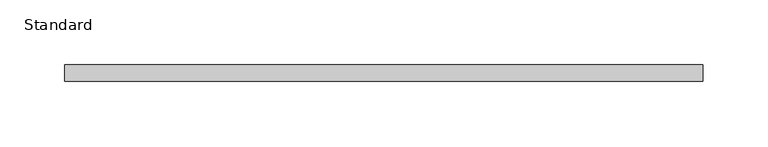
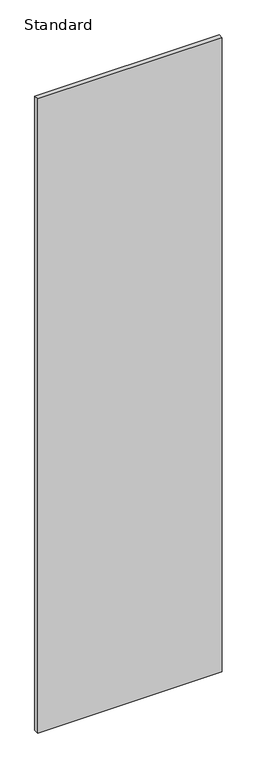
"""IFC4 building model written with IfcOpenShell, lengths in millimetres: furniture geometry, X_Locker-Duracube-Door : Standard."""

from ifc_helpers import new_model, si_unit, frame, origin, place, context, project, spatial, polyline, outline, extrude, source, transform, mapped, element, save


def standard_4930f884(model_context):
    return source(origin(), model_context, "Body", "SweptSolid", [
        extrude(outline(polyline([(291.7003264, -13.0), (-202.2996736, -13.0), (-202.2996736, 0.0), (291.7003264, 0.0), (291.7003264, -13.0)])), frame((0.0, 0.0, 3.0), z_axis=(0.0, 0.0, 1.0), x_axis=(1.0, 0.0, 0.0)), (0.0, 0.0, 1.0), 1794.0),
    ])


if __name__ == "__main__":
    model = new_model("IFC4")
    model_context = context("Model", 3, world=origin())
    ifc_project = project(units=[si_unit("LENGTHUNIT", "METRE", prefix="MILLI")], contexts=[model_context])
    site = spatial("IfcSite", under=ifc_project)
    building = spatial("IfcBuilding", under=site)
    placement = place(None, origin())
    standard_shape = standard_4930f884(model_context)
    element("IfcFurniture", 1, ObjectType="X_Locker-Duracube-Door : Standard", at=placement, inside=building, context=model_context, shape_type="MappedRepresentation", body=[
        mapped(standard_shape, transform((0.0, 0.0, 0.0), x_axis=(1.0, 0.0, 0.0), y_axis=(0.0, 1.0, 0.0), z_axis=(0.0, 0.0, 1.0))),
    ])
    save(model, "model.ifc")
